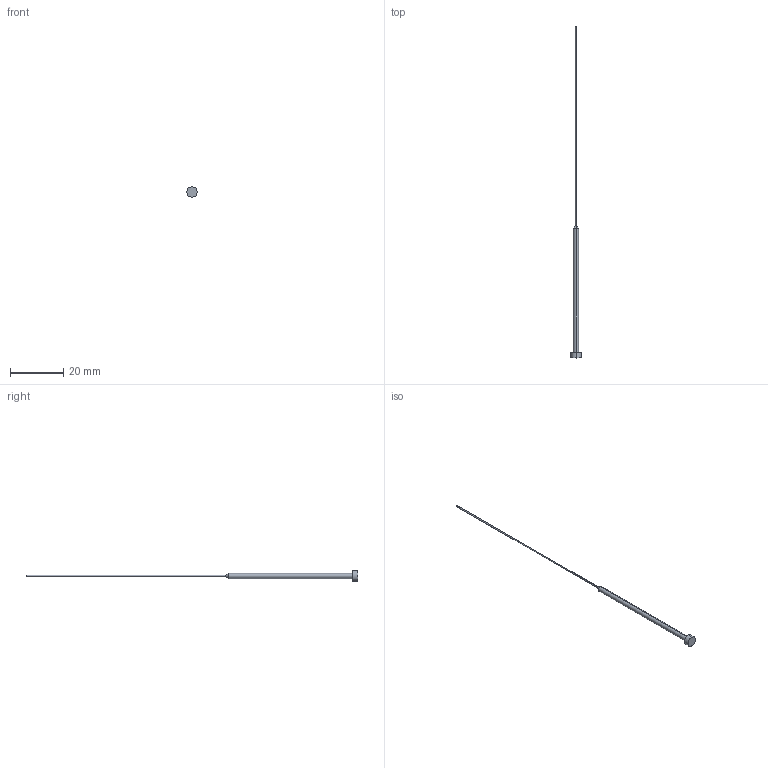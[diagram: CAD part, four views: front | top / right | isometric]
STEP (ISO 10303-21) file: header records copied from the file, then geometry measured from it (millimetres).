
FILE_DESCRIPTION (( 'STEP AP214' ), '1' );
FILE_NAME ('CH_0,5x125.STEP', '2015-09-09T22:34:04', ( '' ), ( '' ), 'SwSTEP 2.0', 'SolidWorks 2014', '' );
FILE_SCHEMA (( 'AUTOMOTIVE_DESIGN' ));
Length unit declared in the file: millimetre
Products named in the file (1): CH_0,5x125
Bounding box: 4 x 125 x 4 mm (x, y, z)
Volume: 188.4 mm3; surface area: 463.9 mm2
Topology: 1 solids, 1 shells, 13 faces, 24 edges, 14 vertices
Faces by surface type: cylinder 6, plane 3, cone 2, torus 2
Entity records: 360 total; most frequent: DIRECTION 68, CARTESIAN_POINT 52, ORIENTED_EDGE 48, AXIS2_PLACEMENT_3D 30, EDGE_CURVE 24, CIRCLE 16, VERTEX_POINT 14, EDGE_LOOP 14
